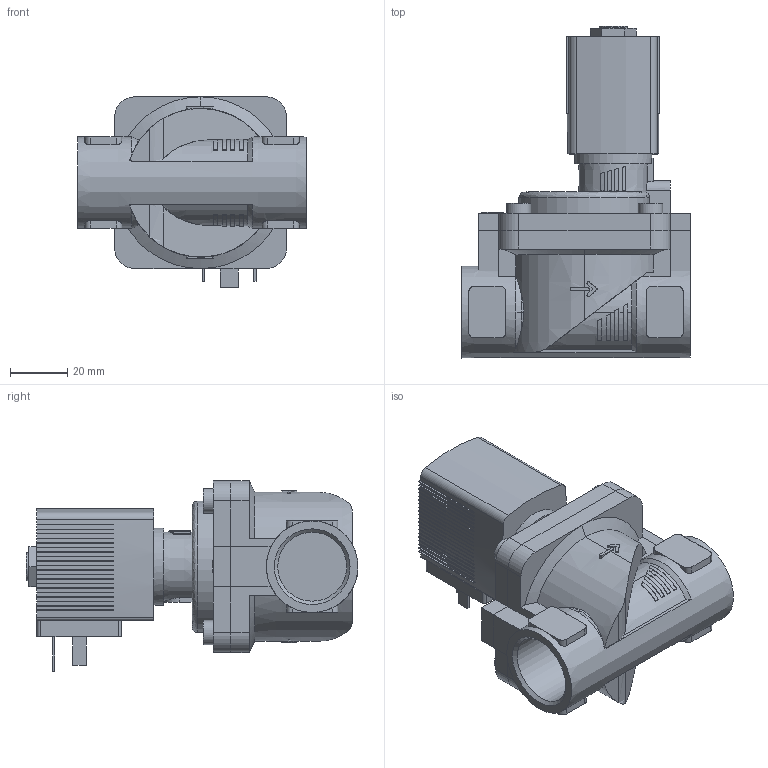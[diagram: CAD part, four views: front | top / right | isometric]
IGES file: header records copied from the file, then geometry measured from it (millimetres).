
Start section: Data from Parasolid IGES Translator 26.0.171, Copyright(c) 2006 Siemens PLM Software. All Rights Reserved.
Global section: file name: 6281-242528-2_2-Way_Solenoid_Valve__Servo-assisted__General_Purpose.igs; native system: By Siemens PLM Incorporated; preprocessor: XPlus GENERIC/IGES 26.0.171; author: Noname; organization: Noname; date: 20240702.105850; units: millimetre
Bounding box: 80 x 116 x 66.5 mm (x, y, z)
Surface area: 43121.7 mm2 (no closed solid volume)
Topology: 0 solids, 0 shells, 559 faces, 3106 edges, 3099 vertices
Faces by surface type: extrusion 434, revolution 125
